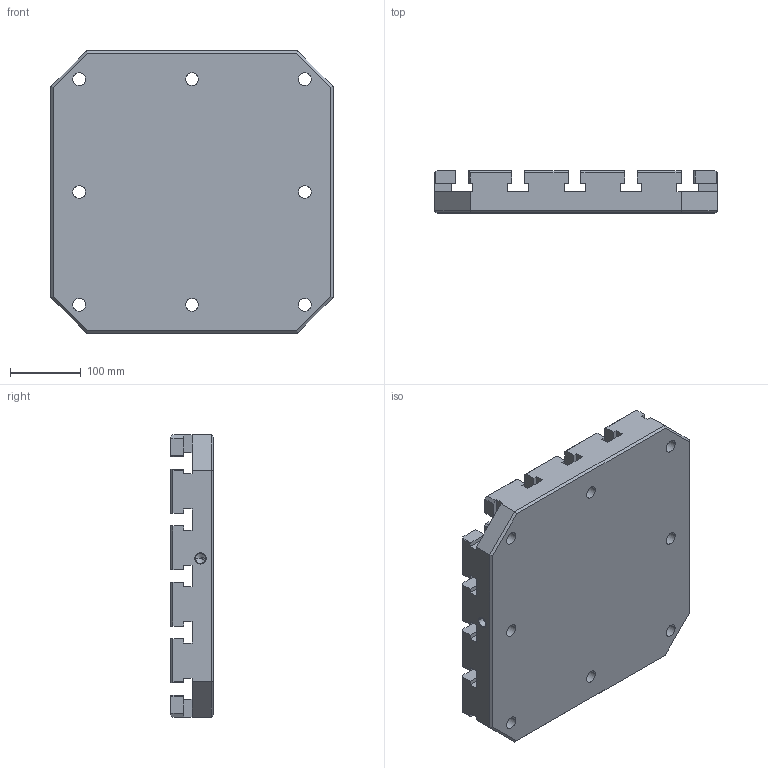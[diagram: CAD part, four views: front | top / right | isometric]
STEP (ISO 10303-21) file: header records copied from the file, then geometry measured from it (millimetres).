
FILE_DESCRIPTION((''),'2;1');
FILE_NAME('FG_WH_BASPL_SQT18NP001','2026-05-17T14:29:17',('Admin'),(''),'CREO PARAMETRIC BY PTC INC, 2025010','CREO PARAMETRIC BY PTC INC, 2025010','');
FILE_SCHEMA(('CONFIG_CONTROL_DESIGN'));
Length unit declared in the file: millimetre
Products named in the file (1): FG_WH_BASPL_SQT18NP001
Bounding box: 400 x 60 x 400 mm (x, y, z)
Volume: 6914242.7 mm3; surface area: 628599.8 mm2
Topology: 1 solids, 4 shells, 403 faces, 1066 edges, 705 vertices
Faces by surface type: plane 339, cylinder 58, cone 6
Entity records: 12346 total; most frequent: CARTESIAN_POINT 2169, ORIENTED_EDGE 2108, DIRECTION 1990, EDGE_CURVE 1060, VECTOR 938, LINE 938, VERTEX_POINT 705, AXIS2_PLACEMENT_3D 526
